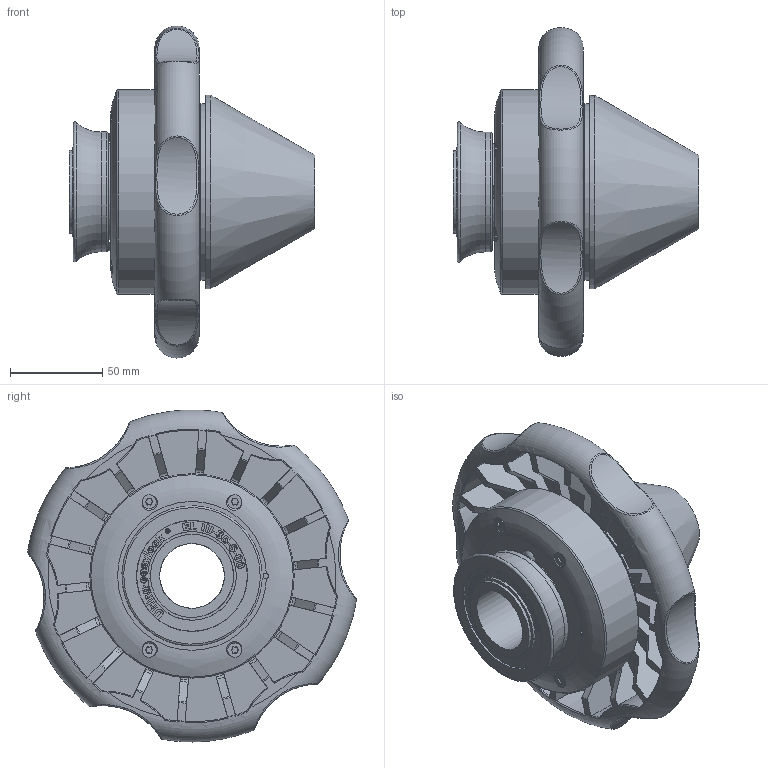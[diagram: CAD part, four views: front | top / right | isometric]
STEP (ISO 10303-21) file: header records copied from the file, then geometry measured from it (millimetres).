
FILE_DESCRIPTION (( 'STEP AP214' ), '1' );
FILE_NAME ('EL-III-35-K60.STEP', '2023-03-16T12:52:54', ( '' ), ( '' ), 'SwSTEP 2.0', 'SolidWorks 2022', '' );
FILE_SCHEMA (( 'AUTOMOTIVE_DESIGN' ));
Length unit declared in the file: millimetre
Products named in the file (1): EL-III-35-K60
Bounding box: 133.12 x 178.13 x 179.88 mm (x, y, z)
Volume: 694590.4 mm3; surface area: 276577.9 mm2
Topology: 44 solids, 73 shells, 1371 faces, 3496 edges, 2305 vertices
Faces by surface type: plane 589, bspline 395, cylinder 227, torus 92, cone 66, sphere 2
Full cylindrical faces by diameter (mm): 2.1 x2, 2.5 x2, 3 x5, 3.3 x4, 4 x4, 4.2 x4, 5.5 x1, 6 x3, 6.8 x1, 7.64 x4, 8 x1, 10.1 x2, 35.05 x1, 35.1 x3, 43.4 x1, 45 x5, 45.1 x1, 45.5 x1, 45.6 x1, 47 x1, 52.5 x1, 52.7 x1, 58.5 x1, 60 x4, 60.2 x1, 65 x1, 66 x2, 68.2 x4, 70 x4, 70.5 x4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
Entity records: 99207 total; most frequent: CARTESIAN_POINT 54669, ORIENTED_EDGE 6442, DIRECTION 4849, EDGE_CURVE 3221, VERTEX_POINT 2216, EDGE_LOOP 1659, AXIS2_PLACEMENT_3D 1633, LINE 1583
